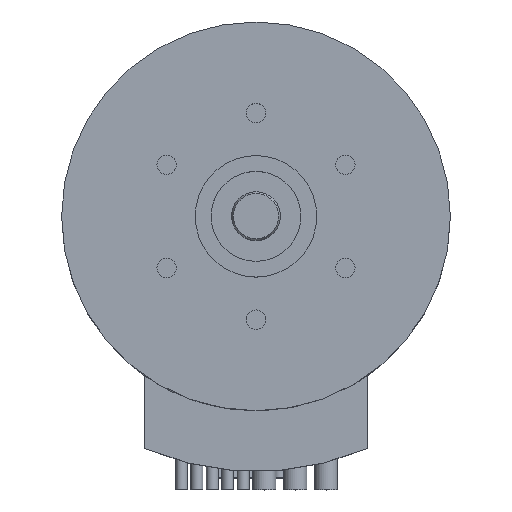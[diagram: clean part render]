
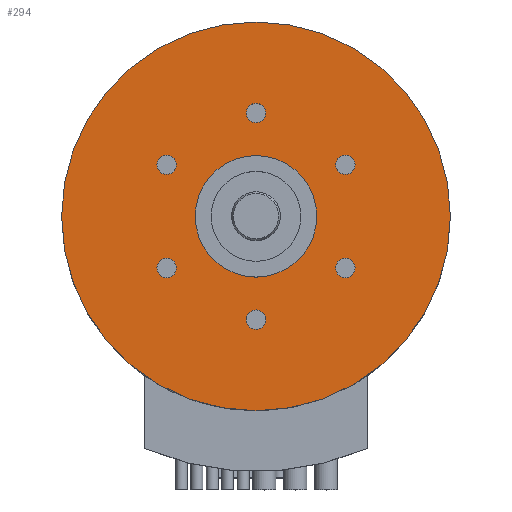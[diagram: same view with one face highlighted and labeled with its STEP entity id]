
A CAD part, top view. The second image highlights one B-rep face of the part: STEP entity #294.
In plain terms, the highlighted planar face has unit normal (0, 0, 1).
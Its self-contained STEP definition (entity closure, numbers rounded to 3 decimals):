
#99=FACE_BOUND('',#490,.T.);
#100=FACE_BOUND('',#491,.T.);
#101=FACE_BOUND('',#492,.T.);
#102=FACE_BOUND('',#493,.T.);
#103=FACE_BOUND('',#494,.T.);
#104=FACE_BOUND('',#495,.T.);
#105=FACE_BOUND('',#496,.T.);
#106=FACE_BOUND('',#497,.T.);
#211=CIRCLE('',#1377,5.);
#212=CIRCLE('',#1379,0.8);
#213=CIRCLE('',#1380,0.8);
#214=CIRCLE('',#1381,0.8);
#215=CIRCLE('',#1382,0.8);
#216=CIRCLE('',#1383,0.8);
#217=CIRCLE('',#1384,0.8);
#218=CIRCLE('',#1385,16.);
#294=ADVANCED_FACE('AS_FLANSCH',(#99,#100,#101,#102,#103,#104,#105,#106),
#382,.T.);
#382=PLANE('',#1386);
#490=EDGE_LOOP('',(#715));
#491=EDGE_LOOP('',(#716));
#492=EDGE_LOOP('',(#717));
#493=EDGE_LOOP('',(#718));
#494=EDGE_LOOP('',(#719));
#495=EDGE_LOOP('',(#720));
#496=EDGE_LOOP('',(#721));
#497=EDGE_LOOP('',(#722));
#715=ORIENTED_EDGE('',*,*,#1122,.T.);
#716=ORIENTED_EDGE('',*,*,#1123,.T.);
#717=ORIENTED_EDGE('',*,*,#1124,.T.);
#718=ORIENTED_EDGE('',*,*,#1125,.T.);
#719=ORIENTED_EDGE('',*,*,#1126,.T.);
#720=ORIENTED_EDGE('',*,*,#1127,.T.);
#721=ORIENTED_EDGE('',*,*,#1121,.F.);
#722=ORIENTED_EDGE('',*,*,#1128,.F.);
#986=VERTEX_POINT('',#2111);
#987=VERTEX_POINT('',#2114);
#988=VERTEX_POINT('',#2116);
#989=VERTEX_POINT('',#2118);
#990=VERTEX_POINT('',#2120);
#991=VERTEX_POINT('',#2122);
#992=VERTEX_POINT('',#2124);
#993=VERTEX_POINT('',#2126);
#1121=EDGE_CURVE('',#986,#986,#211,.T.);
#1122=EDGE_CURVE('',#987,#987,#212,.T.);
#1123=EDGE_CURVE('',#988,#988,#213,.T.);
#1124=EDGE_CURVE('',#989,#989,#214,.T.);
#1125=EDGE_CURVE('',#990,#990,#215,.T.);
#1126=EDGE_CURVE('',#991,#991,#216,.T.);
#1127=EDGE_CURVE('',#992,#992,#217,.T.);
#1128=EDGE_CURVE('',#993,#993,#218,.T.);
#1377=AXIS2_PLACEMENT_3D('',#2110,#1661,#1662);
#1379=AXIS2_PLACEMENT_3D('',#2113,#1665,#1666);
#1380=AXIS2_PLACEMENT_3D('',#2115,#1667,#1668);
#1381=AXIS2_PLACEMENT_3D('',#2117,#1669,#1670);
#1382=AXIS2_PLACEMENT_3D('',#2119,#1671,#1672);
#1383=AXIS2_PLACEMENT_3D('',#2121,#1673,#1674);
#1384=AXIS2_PLACEMENT_3D('',#2123,#1675,#1676);
#1385=AXIS2_PLACEMENT_3D('',#2125,#1677,#1678);
#1386=AXIS2_PLACEMENT_3D('',#2127,#1679,#1680);
#1661=DIRECTION('',(0.,0.,1.));
#1662=DIRECTION('',(1.,0.,0.));
#1665=DIRECTION('',(0.,0.,-1.));
#1666=DIRECTION('',(-1.,0.,0.));
#1667=DIRECTION('',(0.,0.,-1.));
#1668=DIRECTION('',(-1.,0.,0.));
#1669=DIRECTION('',(0.,0.,-1.));
#1670=DIRECTION('',(-1.,0.,0.));
#1671=DIRECTION('',(0.,0.,-1.));
#1672=DIRECTION('',(-1.,0.,0.));
#1673=DIRECTION('',(0.,0.,-1.));
#1674=DIRECTION('',(-1.,0.,0.));
#1675=DIRECTION('',(0.,0.,-1.));
#1676=DIRECTION('',(-1.,0.,0.));
#1677=DIRECTION('',(0.,0.,-1.));
#1678=DIRECTION('',(1.,0.,0.));
#1679=DIRECTION('',(0.,0.,1.));
#1680=DIRECTION('',(1.,0.,0.));
#2110=CARTESIAN_POINT('',(0.,0.,0.));
#2111=CARTESIAN_POINT('',(5.,0.,0.));
#2113=CARTESIAN_POINT('',(7.361,4.25,0.));
#2114=CARTESIAN_POINT('',(6.561,4.25,0.));
#2115=CARTESIAN_POINT('',(7.361,-4.25,0.));
#2116=CARTESIAN_POINT('',(6.561,-4.25,0.));
#2117=CARTESIAN_POINT('',(0.,-8.5,0.));
#2118=CARTESIAN_POINT('',(-0.8,-8.5,0.));
#2119=CARTESIAN_POINT('',(-7.361,-4.25,0.));
#2120=CARTESIAN_POINT('',(-8.161,-4.25,0.));
#2121=CARTESIAN_POINT('',(-7.361,4.25,0.));
#2122=CARTESIAN_POINT('',(-8.161,4.25,0.));
#2123=CARTESIAN_POINT('',(0.,8.5,0.));
#2124=CARTESIAN_POINT('',(-0.8,8.5,0.));
#2125=CARTESIAN_POINT('',(0.,0.,0.));
#2126=CARTESIAN_POINT('',(16.,0.,0.));
#2127=CARTESIAN_POINT('',(0.,0.,0.));
